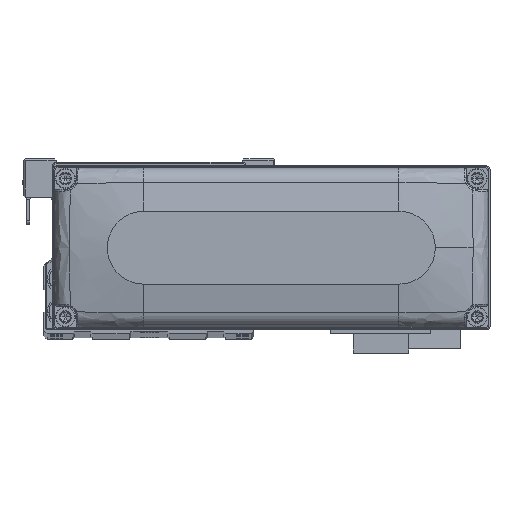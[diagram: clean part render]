
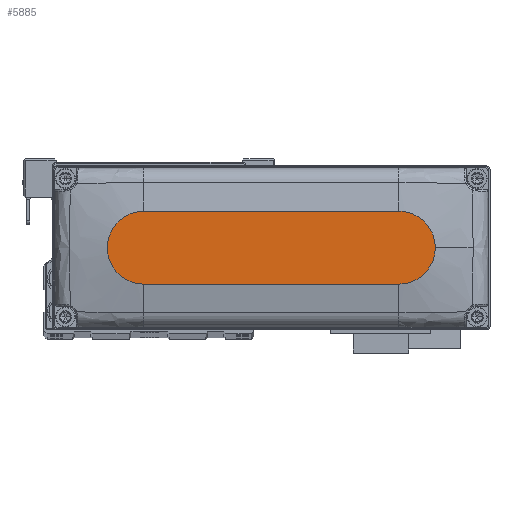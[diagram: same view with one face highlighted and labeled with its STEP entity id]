
A CAD part, top view. The second image highlights one B-rep face of the part: STEP entity #5885.
In plain terms, the highlighted planar face has unit normal (0, 0, 1).
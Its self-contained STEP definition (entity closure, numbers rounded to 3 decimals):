
#1008 = DIRECTION ( 'NONE',  ( -1., 0., 0. ) ) ;
#2035 = DIRECTION ( 'NONE',  ( 0., 0., 1. ) ) ;
#2171 = AXIS2_PLACEMENT_3D ( 'NONE', #30345, #2035, #14630 ) ;
#3058 = EDGE_CURVE ( 'NONE', #26962, #12601, #19955, .T. ) ;
#4514 = CARTESIAN_POINT ( 'NONE',  ( 35., 0., 28. ) ) ;
#5205 = EDGE_CURVE ( 'NONE', #12601, #19582, #20947, .T. ) ;
#5251 = DIRECTION ( 'NONE',  ( 1., 0., 0. ) ) ;
#5885 = ADVANCED_FACE ( 'NONE', ( #21899 ), #34541, .T. ) ;
#6195 = CARTESIAN_POINT ( 'NONE',  ( 0., 0., 28. ) ) ;
#6595 = EDGE_CURVE ( 'NONE', #19582, #10934, #25872, .T. ) ;
#8027 = AXIS2_PLACEMENT_3D ( 'NONE', #15159, #27757, #40410 ) ;
#8820 = ORIENTED_EDGE ( 'NONE', *, *, #23261, .T. ) ;
#10455 = CARTESIAN_POINT ( 'NONE',  ( 45., 0., 28. ) ) ;
#10934 = VERTEX_POINT ( 'NONE', #10455 ) ;
#11189 = ORIENTED_EDGE ( 'NONE', *, *, #5205, .T. ) ;
#12601 = VERTEX_POINT ( 'NONE', #24672 ) ;
#12901 = EDGE_LOOP ( 'NONE', ( #17532, #33217, #11189, #27481, #8820 ) ) ;
#14630 = DIRECTION ( 'NONE',  ( 1., 0., 0. ) ) ;
#14747 = VERTEX_POINT ( 'NONE', #27889 ) ;
#15159 = CARTESIAN_POINT ( 'NONE',  ( 35., 0., 28. ) ) ;
#15285 = AXIS2_PLACEMENT_3D ( 'NONE', #4514, #17117, #29724 ) ;
#16720 = LINE ( 'NONE', #29331, #40708 ) ;
#17117 = DIRECTION ( 'NONE',  ( 0., 0., 1. ) ) ;
#17532 = ORIENTED_EDGE ( 'NONE', *, *, #37438, .T. ) ;
#17912 = AXIS2_PLACEMENT_3D ( 'NONE', #6195, #18801, #31433 ) ;
#18801 = DIRECTION ( 'NONE',  ( 0., 0., 1. ) ) ;
#19582 = VERTEX_POINT ( 'NONE', #38484 ) ;
#19955 = CIRCLE ( 'NONE', #2171, 10. ) ;
#20947 = LINE ( 'NONE', #33574, #31078 ) ;
#21899 = FACE_OUTER_BOUND ( 'NONE', #12901, .T. ) ;
#23261 = EDGE_CURVE ( 'NONE', #10934, #14747, #33114, .T. ) ;
#23997 = CARTESIAN_POINT ( 'NONE',  ( -35., 10., 28. ) ) ;
#24672 = CARTESIAN_POINT ( 'NONE',  ( -35., -10., 28. ) ) ;
#25872 = CIRCLE ( 'NONE', #8027, 10. ) ;
#26962 = VERTEX_POINT ( 'NONE', #23997 ) ;
#27481 = ORIENTED_EDGE ( 'NONE', *, *, #6595, .T. ) ;
#27757 = DIRECTION ( 'NONE',  ( 0., 0., 1. ) ) ;
#27889 = CARTESIAN_POINT ( 'NONE',  ( 35., 10., 28. ) ) ;
#29331 = CARTESIAN_POINT ( 'NONE',  ( -35., 10., 28. ) ) ;
#29724 = DIRECTION ( 'NONE',  ( 1., 0., 0. ) ) ;
#30345 = CARTESIAN_POINT ( 'NONE',  ( -35., 0., 28. ) ) ;
#31078 = VECTOR ( 'NONE', #5251, 1000. ) ;
#31433 = DIRECTION ( 'NONE',  ( 1., 0., 0. ) ) ;
#33114 = CIRCLE ( 'NONE', #15285, 10. ) ;
#33217 = ORIENTED_EDGE ( 'NONE', *, *, #3058, .T. ) ;
#33574 = CARTESIAN_POINT ( 'NONE',  ( -35., -10., 28. ) ) ;
#34541 = PLANE ( 'NONE',  #17912 ) ;
#37438 = EDGE_CURVE ( 'NONE', #14747, #26962, #16720, .T. ) ;
#38484 = CARTESIAN_POINT ( 'NONE',  ( 35., -10., 28. ) ) ;
#40410 = DIRECTION ( 'NONE',  ( 1., 0., 0. ) ) ;
#40708 = VECTOR ( 'NONE', #1008, 1000. ) ;
